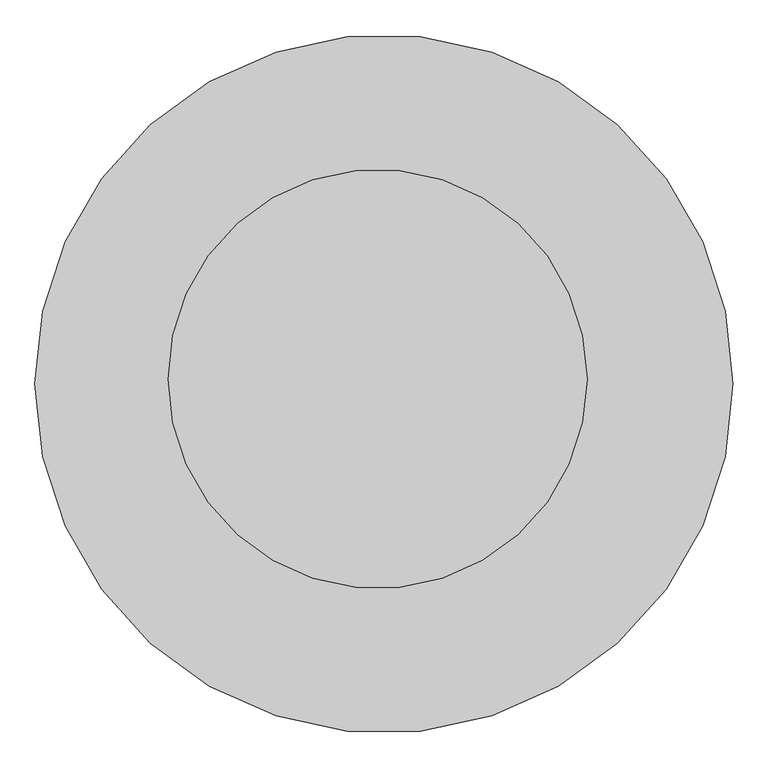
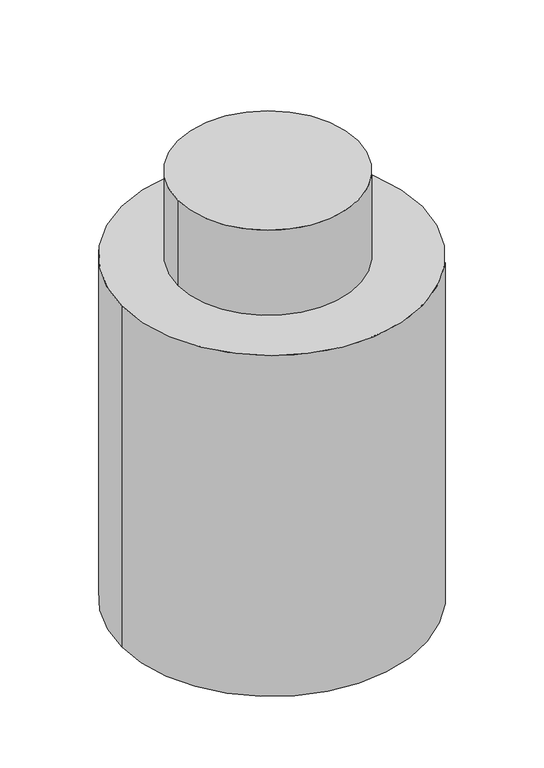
"""IFC4 building model written with IfcOpenShell, lengths in millimetres: flow terminal geometry, Pumpschacht : Pumpschacht."""

from ifc_helpers import new_model, si_unit, point, frame, frame_2d, origin, origin_2d, place, context, project, spatial, circle_curve, trimmed, segment, composite_curve, outline, extrude, source, transform, mapped, element, save


def flow_terminal_2da2d334(model_context):
    return source(origin(), model_context, "Body", "SweptSolid", [
        extrude(outline(composite_curve([segment(trimmed(circle_curve(frame_2d((8.9756461, -7.0159998)), 500.0), [point((-491.0243539, -7.0159998))], [point((508.9756461, -7.0159998))], False, "CARTESIAN"), True, "CONTINUOUS"), segment(trimmed(circle_curve(frame_2d((8.9756461, -7.0159998)), 500.0), [point((508.9756461, -7.0159998))], [point((-491.0243539, -7.0159998))], False, "CARTESIAN"), True, "CONTINUOUS")], self_intersect=False)), frame((0.0, 0.0, -1500.0), z_axis=(0.0, 0.0, 1.0), x_axis=(1.0, 0.0, 0.0)), (0.0, 0.0, 1.0), 1200.0),
        extrude(outline(composite_curve([segment(trimmed(circle_curve(origin_2d(), 300.0), [point((-300.0, 0.0))], [point((300.0, 0.0))], False, "CARTESIAN"), True, "CONTINUOUS"), segment(trimmed(circle_curve(origin_2d(), 300.0), [point((300.0, 0.0))], [point((-300.0, 0.0))], False, "CARTESIAN"), True, "CONTINUOUS")], self_intersect=False)), frame((0.0, 0.0, -300.0), z_axis=(0.0, 0.0, 1.0), x_axis=(1.0, 0.0, 0.0)), (0.0, 0.0, 1.0), 300.0),
    ])


if __name__ == "__main__":
    model = new_model("IFC4")
    model_context = context("Model", 3, world=origin())
    ifc_project = project(units=[si_unit("LENGTHUNIT", "METRE", prefix="MILLI")], contexts=[model_context])
    site = spatial("IfcSite", under=ifc_project)
    building = spatial("IfcBuilding", under=site)
    placement = place(None, origin())
    flow_terminal_shape = flow_terminal_2da2d334(model_context)
    element("IfcFlowTerminal", 1, ObjectType="Pumpschacht : Pumpschacht", at=placement, inside=building, context=model_context, shape_type="MappedRepresentation", body=[
        mapped(flow_terminal_shape, transform((0.0, 0.0, 0.0), x_axis=(1.0, 0.0, 0.0), y_axis=(0.0, 1.0, 0.0), z_axis=(0.0, 0.0, 1.0))),
    ])
    save(model, "model.ifc")
